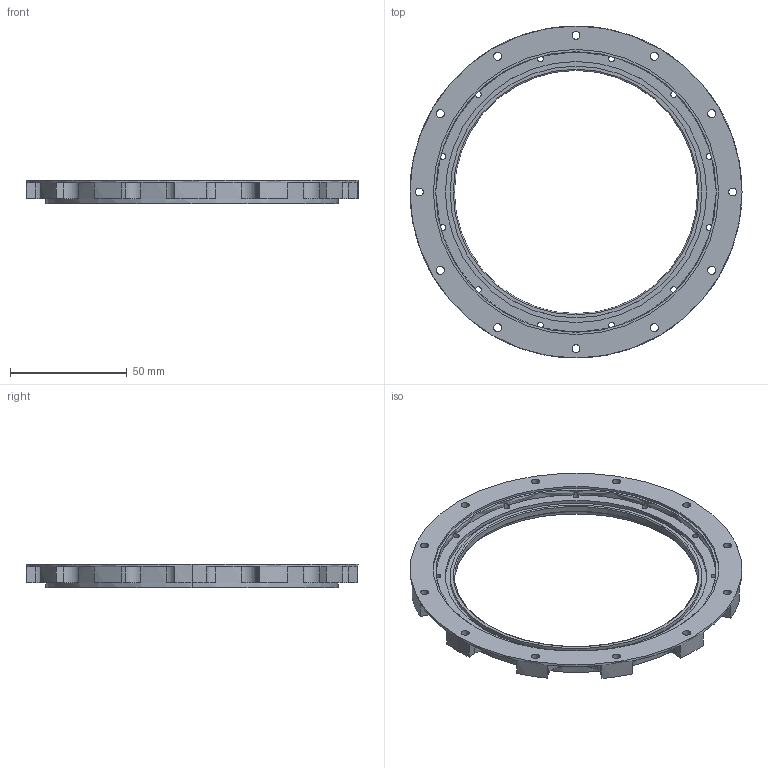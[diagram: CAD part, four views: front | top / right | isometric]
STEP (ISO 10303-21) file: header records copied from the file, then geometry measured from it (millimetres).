
FILE_DESCRIPTION (( 'STEP AP203' ), '1' );
FILE_NAME ('HWP-cover-V2.STEP', '2024-07-01T06:33:52', ( '' ), ( '' ), 'SwSTEP 2.0', 'SolidWorks 2021', '' );
FILE_SCHEMA (( 'CONFIG_CONTROL_DESIGN' ));
Length unit declared in the file: millimetre
Products named in the file (1): HWP-cover-V2
Bounding box: 142 x 142 x 10 mm (x, y, z)
Volume: 34921.6 mm3; surface area: 25535 mm2
Topology: 1 solids, 1 shells, 191 faces, 558 edges, 362 vertices
Faces by surface type: cylinder 94, plane 55, cone 38, torus 4
Entity records: 6695 total; most frequent: DIRECTION 1232, CARTESIAN_POINT 1202, ORIENTED_EDGE 1116, EDGE_CURVE 558, AXIS2_PLACEMENT_3D 496, VERTEX_POINT 362, CIRCLE 304, LINE 240
